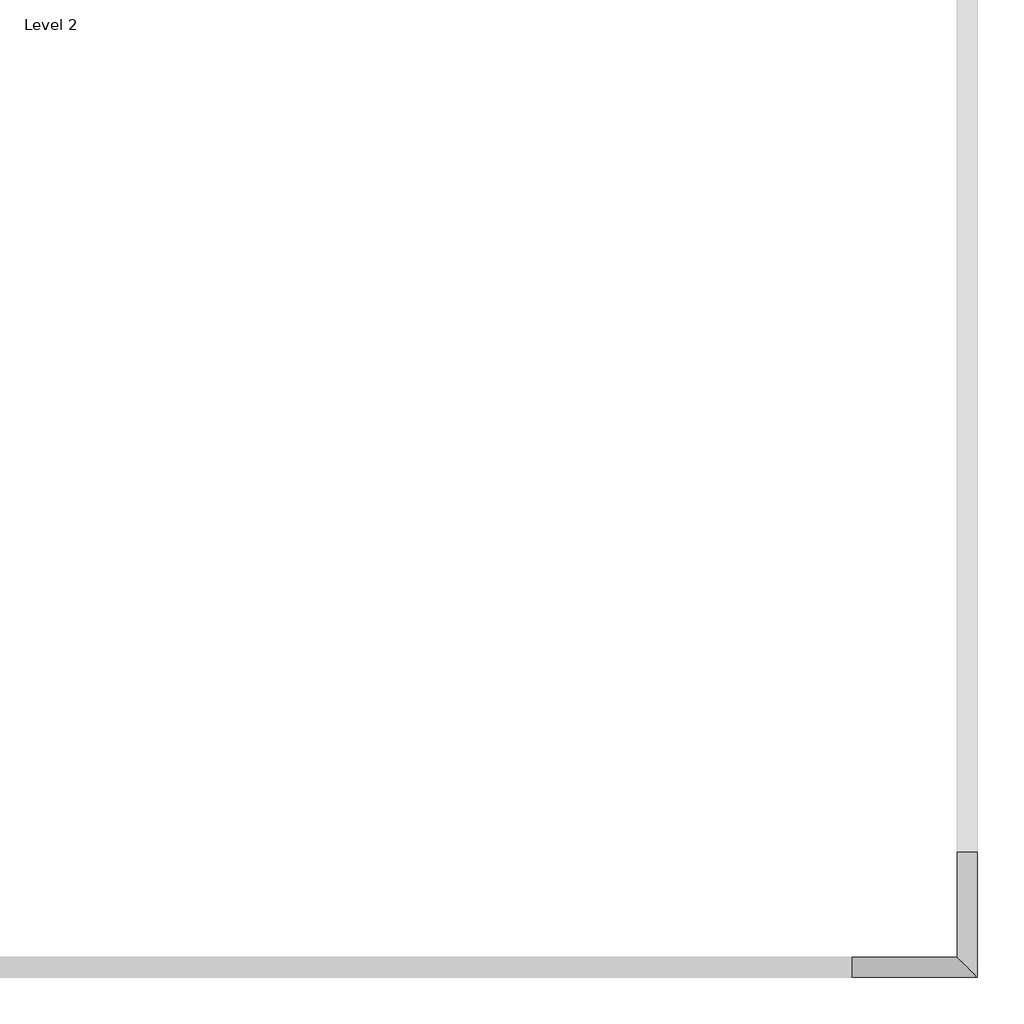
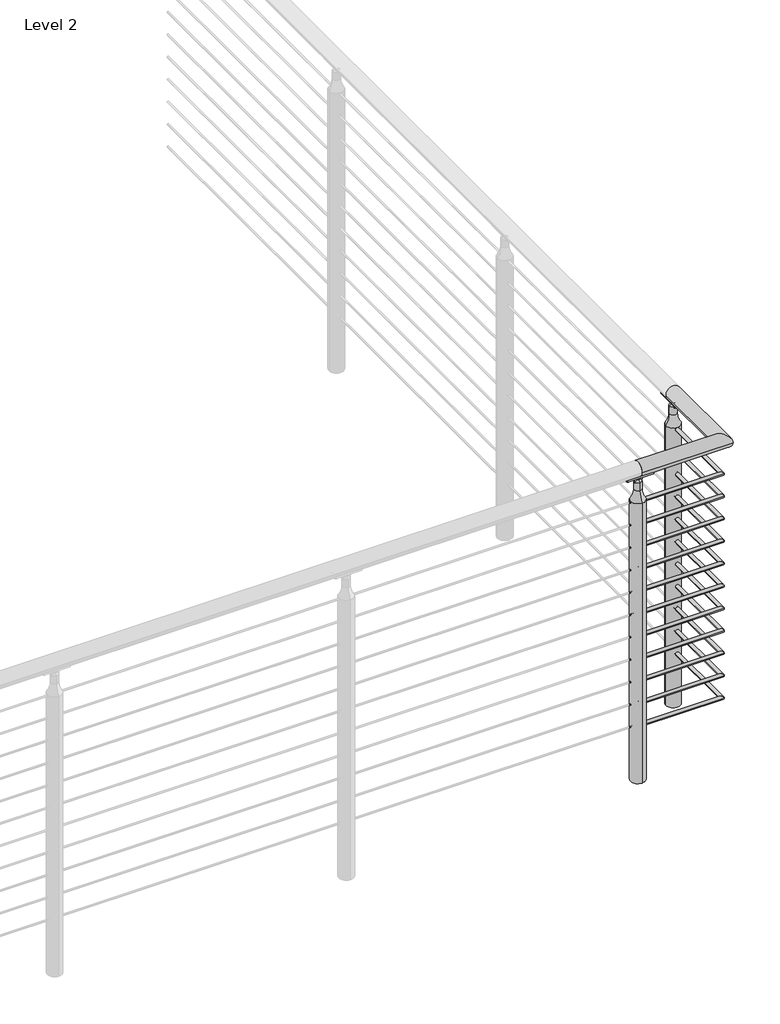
# One storey, part 15 of 21: 1 railing.
"""IFC4 building model written with IfcOpenShell, lengths in millimetres."""

from ifc_helpers import new_model, si_unit, point, frame, frame_2d, origin, place, context, project, spatial, polyline, circle_curve, ellipse_curve, trimmed, segment, composite_curve, outline, extrude, element, save
from ifc_brep_helpers import plane_surface, cylinder_surface, revolved_surface, advanced_brep

model = new_model("IFC4")

# Units and contexts
model_context = context("Model", 3, world=origin())
ifc_project = project(units=[si_unit("LENGTHUNIT", "METRE", prefix="MILLI")], contexts=[model_context])

# Site, building, storey
site = spatial("IfcSite", under=ifc_project)
building = spatial("IfcBuilding", under=site)
storey = spatial("IfcBuildingStorey", under=building, Name="Level 2", Elevation=3048.0)

# Railing
placement = place(None, origin())
element("IfcRailing", 1, ObjectType="VIVA-CIRCA-Cable-Weld Mount-Corner", at=placement, inside=storey, context=model_context, shape_type="SolidModel", body=[
    advanced_brep(
    [(46126.2072927, -52244.4426165, 4102.1), (46126.2072927, -52193.6426165, 4102.1), (46443.7072927, -52244.4426165, 4102.1), (46392.9072927, -52193.6426165, 4102.1), (46443.7072927, -51926.9426165, 4102.1), (46392.9072927, -51926.9426165, 4102.1)],
    [
        (0, 1, circle_curve(frame((46126.2072927, -52219.0426165, 4102.1), z_axis=(-1.0, 0.0, 0.0), x_axis=(0.0, 1.0, 0.0)), 25.4)),
        (1, 0, circle_curve(frame((46126.2072927, -52219.0426165, 4102.1), z_axis=(-1.0, 0.0, 0.0), x_axis=(0.0, 1.0, 0.0)), 25.4)),
        (0, 2),
        (2, 3, ellipse_curve(frame((46418.3072927, -52219.0426165, 4102.1), z_axis=(-0.7071067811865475, -0.7071067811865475, 0.0), x_axis=(-0.7071067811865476, 0.7071067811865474, 0.0)), 35.9210245, 25.4)),
        (3, 1),
        (3, 2, ellipse_curve(frame((46418.3072927, -52219.0426165, 4102.1), z_axis=(-0.7071067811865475, -0.7071067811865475, 0.0), x_axis=(-0.7071067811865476, 0.7071067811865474, 0.0)), 35.9210245, 25.4)),
        (4, 5, circle_curve(frame((46418.3072927, -51926.9426165, 4102.1), z_axis=(0.0, 1.0, 0.0), x_axis=(-1.0, 0.0, 0.0)), 25.4)),
        (5, 4, circle_curve(frame((46418.3072927, -51926.9426165, 4102.1), z_axis=(0.0, 1.0, 0.0), x_axis=(-1.0, 0.0, 0.0)), 25.4)),
        (2, 4),
        (5, 3),
    ],
    [
        plane_surface(frame((46126.2072927, -52219.0426165, 4127.5), z_axis=(-1.0, 0.0, 0.0), x_axis=(0.0, 1.0, 0.0))),
        cylinder_surface(frame((46126.2072927, -52219.0426165, 4102.1), z_axis=(-1.0, 0.0, 0.0), x_axis=(0.0, 1.0, 0.0)), 25.4),
        plane_surface(frame((46418.3072927, -51926.9426165, 4127.5), z_axis=(0.0, 1.0, 0.0), x_axis=(0.0, 0.0, 1.0))),
        cylinder_surface(frame((46418.3072927, -52219.0426165, 4102.1), z_axis=(0.0, -1.0, 0.0), x_axis=(-1.0, 0.0, 0.0)), 25.4),
    ],
    [
        (0, [[1, 2]]),
        (1, [[-1, 3, 4, 5]]),
        (1, [[-2, -5, 6, -3]]),
        (2, [[7, 8]]),
        (3, [[-4, 9, -8, 10]]),
        (3, [[-6, -10, -7, -9]]),
    ],
),
    advanced_brep(
    [(46126.2072927, -52212.6926165, 3981.45), (46126.2072927, -52225.3926165, 3981.45), (46411.9572927, -52212.6926165, 3981.45), (46424.6572927, -52225.3926165, 3981.45), (46411.9572927, -51926.9426165, 3981.45), (46424.6572927, -51926.9426165, 3981.45)],
    [
        (0, 1, circle_curve(frame((46126.2072927, -52219.0426165, 3981.45), z_axis=(-1.0, 0.0, 0.0), x_axis=(0.0, -1.0, 0.0)), 6.35)),
        (1, 0, circle_curve(frame((46126.2072927, -52219.0426165, 3981.45), z_axis=(-1.0, 0.0, 0.0), x_axis=(0.0, -1.0, 0.0)), 6.35)),
        (0, 2),
        (2, 3, ellipse_curve(frame((46418.3072927, -52219.0426165, 3981.45), z_axis=(-0.7071067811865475, -0.7071067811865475, 0.0), x_axis=(-0.7071067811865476, 0.7071067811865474, 0.0)), 8.9802561, 6.35)),
        (3, 1),
        (3, 2, ellipse_curve(frame((46418.3072927, -52219.0426165, 3981.45), z_axis=(-0.7071067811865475, -0.7071067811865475, 0.0), x_axis=(-0.7071067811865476, 0.7071067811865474, 0.0)), 8.9802561, 6.35)),
        (4, 5, circle_curve(frame((46418.3072927, -51926.9426165, 3981.45), z_axis=(0.0, 1.0, 0.0), x_axis=(1.0, 0.0, 0.0)), 6.35)),
        (5, 4, circle_curve(frame((46418.3072927, -51926.9426165, 3981.45), z_axis=(0.0, 1.0, 0.0), x_axis=(1.0, 0.0, 0.0)), 6.35)),
        (2, 4),
        (5, 3),
    ],
    [
        plane_surface(frame((46126.2072927, -52219.0426165, 3987.8), z_axis=(-1.0, 0.0, 0.0), x_axis=(0.0, 1.0, 0.0))),
        cylinder_surface(frame((46126.2072927, -52219.0426165, 3981.45), z_axis=(-1.0, 0.0, 0.0), x_axis=(0.0, -1.0, 0.0)), 6.35),
        plane_surface(frame((46418.3072927, -51926.9426165, 3987.8), z_axis=(0.0, 1.0, 0.0), x_axis=(0.0, 0.0, 1.0))),
        cylinder_surface(frame((46418.3072927, -52219.0426165, 3981.45), z_axis=(0.0, -1.0, 0.0), x_axis=(1.0, 0.0, 0.0)), 6.35),
    ],
    [
        (0, [[1, 2]]),
        (1, [[-1, 3, 4, 5]]),
        (1, [[-2, -5, 6, -3]]),
        (2, [[7, 8]]),
        (3, [[-4, 9, -8, 10]]),
        (3, [[-6, -10, -7, -9]]),
    ],
),
    advanced_brep(
    [(46126.2072927, -52212.6926165, 3898.9), (46126.2072927, -52225.3926165, 3898.9), (46411.9572927, -52212.6926165, 3898.9), (46424.6572927, -52225.3926165, 3898.9), (46411.9572927, -51926.9426165, 3898.9), (46424.6572927, -51926.9426165, 3898.9)],
    [
        (0, 1, circle_curve(frame((46126.2072927, -52219.0426165, 3898.9), z_axis=(-1.0, 0.0, 0.0), x_axis=(0.0, -1.0, 0.0)), 6.35)),
        (1, 0, circle_curve(frame((46126.2072927, -52219.0426165, 3898.9), z_axis=(-1.0, 0.0, 0.0), x_axis=(0.0, -1.0, 0.0)), 6.35)),
        (0, 2),
        (2, 3, ellipse_curve(frame((46418.3072927, -52219.0426165, 3898.9), z_axis=(-0.7071067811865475, -0.7071067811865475, 0.0), x_axis=(-0.7071067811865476, 0.7071067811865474, 0.0)), 8.9802561, 6.35)),
        (3, 1),
        (3, 2, ellipse_curve(frame((46418.3072927, -52219.0426165, 3898.9), z_axis=(-0.7071067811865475, -0.7071067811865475, 0.0), x_axis=(-0.7071067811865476, 0.7071067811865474, 0.0)), 8.9802561, 6.35)),
        (4, 5, circle_curve(frame((46418.3072927, -51926.9426165, 3898.9), z_axis=(0.0, 1.0, 0.0), x_axis=(1.0, 0.0, 0.0)), 6.35)),
        (5, 4, circle_curve(frame((46418.3072927, -51926.9426165, 3898.9), z_axis=(0.0, 1.0, 0.0), x_axis=(1.0, 0.0, 0.0)), 6.35)),
        (2, 4),
        (5, 3),
    ],
    [
        plane_surface(frame((46126.2072927, -52219.0426165, 3905.25), z_axis=(-1.0, 0.0, 0.0), x_axis=(0.0, 1.0, 0.0))),
        cylinder_surface(frame((46126.2072927, -52219.0426165, 3898.9), z_axis=(-1.0, 0.0, 0.0), x_axis=(0.0, -1.0, 0.0)), 6.35),
        plane_surface(frame((46418.3072927, -51926.9426165, 3905.25), z_axis=(0.0, 1.0, 0.0), x_axis=(0.0, 0.0, 1.0))),
        cylinder_surface(frame((46418.3072927, -52219.0426165, 3898.9), z_axis=(0.0, -1.0, 0.0), x_axis=(1.0, 0.0, 0.0)), 6.35),
    ],
    [
        (0, [[1, 2]]),
        (1, [[-1, 3, 4, 5]]),
        (1, [[-2, -5, 6, -3]]),
        (2, [[7, 8]]),
        (3, [[-4, 9, -8, 10]]),
        (3, [[-6, -10, -7, -9]]),
    ],
),
    advanced_brep(
    [(46126.2072927, -52212.6926165, 3816.35), (46126.2072927, -52225.3926165, 3816.35), (46411.9572927, -52212.6926165, 3816.35), (46424.6572927, -52225.3926165, 3816.35), (46411.9572927, -51926.9426165, 3816.35), (46424.6572927, -51926.9426165, 3816.35)],
    [
        (0, 1, circle_curve(frame((46126.2072927, -52219.0426165, 3816.35), z_axis=(-1.0, 0.0, 0.0), x_axis=(0.0, -1.0, 0.0)), 6.35)),
        (1, 0, circle_curve(frame((46126.2072927, -52219.0426165, 3816.35), z_axis=(-1.0, 0.0, 0.0), x_axis=(0.0, -1.0, 0.0)), 6.35)),
        (0, 2),
        (2, 3, ellipse_curve(frame((46418.3072927, -52219.0426165, 3816.35), z_axis=(-0.7071067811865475, -0.7071067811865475, 0.0), x_axis=(-0.7071067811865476, 0.7071067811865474, 0.0)), 8.9802561, 6.35)),
        (3, 1),
        (3, 2, ellipse_curve(frame((46418.3072927, -52219.0426165, 3816.35), z_axis=(-0.7071067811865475, -0.7071067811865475, 0.0), x_axis=(-0.7071067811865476, 0.7071067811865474, 0.0)), 8.9802561, 6.35)),
        (4, 5, circle_curve(frame((46418.3072927, -51926.9426165, 3816.35), z_axis=(0.0, 1.0, 0.0), x_axis=(1.0, 0.0, 0.0)), 6.35)),
        (5, 4, circle_curve(frame((46418.3072927, -51926.9426165, 3816.35), z_axis=(0.0, 1.0, 0.0), x_axis=(1.0, 0.0, 0.0)), 6.35)),
        (2, 4),
        (5, 3),
    ],
    [
        plane_surface(frame((46126.2072927, -52219.0426165, 3822.7), z_axis=(-1.0, 0.0, 0.0), x_axis=(0.0, 1.0, 0.0))),
        cylinder_surface(frame((46126.2072927, -52219.0426165, 3816.35), z_axis=(-1.0, 0.0, 0.0), x_axis=(0.0, -1.0, 0.0)), 6.35),
        plane_surface(frame((46418.3072927, -51926.9426165, 3822.7), z_axis=(0.0, 1.0, 0.0), x_axis=(0.0, 0.0, 1.0))),
        cylinder_surface(frame((46418.3072927, -52219.0426165, 3816.35), z_axis=(0.0, -1.0, 0.0), x_axis=(1.0, 0.0, 0.0)), 6.35),
    ],
    [
        (0, [[1, 2]]),
        (1, [[-1, 3, 4, 5]]),
        (1, [[-2, -5, 6, -3]]),
        (2, [[7, 8]]),
        (3, [[-4, 9, -8, 10]]),
        (3, [[-6, -10, -7, -9]]),
    ],
),
    advanced_brep(
    [(46126.2072927, -52212.6926165, 3733.8), (46126.2072927, -52225.3926165, 3733.8), (46411.9572927, -52212.6926165, 3733.8), (46424.6572927, -52225.3926165, 3733.8), (46411.9572927, -51926.9426165, 3733.8), (46424.6572927, -51926.9426165, 3733.8)],
    [
        (0, 1, circle_curve(frame((46126.2072927, -52219.0426165, 3733.8), z_axis=(-1.0, 0.0, 0.0), x_axis=(0.0, -1.0, 0.0)), 6.35)),
        (1, 0, circle_curve(frame((46126.2072927, -52219.0426165, 3733.8), z_axis=(-1.0, 0.0, 0.0), x_axis=(0.0, -1.0, 0.0)), 6.35)),
        (0, 2),
        (2, 3, ellipse_curve(frame((46418.3072927, -52219.0426165, 3733.8), z_axis=(-0.7071067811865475, -0.7071067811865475, 0.0), x_axis=(-0.7071067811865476, 0.7071067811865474, 0.0)), 8.9802561, 6.35)),
        (3, 1),
        (3, 2, ellipse_curve(frame((46418.3072927, -52219.0426165, 3733.8), z_axis=(-0.7071067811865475, -0.7071067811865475, 0.0), x_axis=(-0.7071067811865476, 0.7071067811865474, 0.0)), 8.9802561, 6.35)),
        (4, 5, circle_curve(frame((46418.3072927, -51926.9426165, 3733.8), z_axis=(0.0, 1.0, 0.0), x_axis=(1.0, 0.0, 0.0)), 6.35)),
        (5, 4, circle_curve(frame((46418.3072927, -51926.9426165, 3733.8), z_axis=(0.0, 1.0, 0.0), x_axis=(1.0, 0.0, 0.0)), 6.35)),
        (2, 4),
        (5, 3),
    ],
    [
        plane_surface(frame((46126.2072927, -52219.0426165, 3740.15), z_axis=(-1.0, 0.0, 0.0), x_axis=(0.0, 1.0, 0.0))),
        cylinder_surface(frame((46126.2072927, -52219.0426165, 3733.8), z_axis=(-1.0, 0.0, 0.0), x_axis=(0.0, -1.0, 0.0)), 6.35),
        plane_surface(frame((46418.3072927, -51926.9426165, 3740.15), z_axis=(0.0, 1.0, 0.0), x_axis=(0.0, 0.0, 1.0))),
        cylinder_surface(frame((46418.3072927, -52219.0426165, 3733.8), z_axis=(0.0, -1.0, 0.0), x_axis=(1.0, 0.0, 0.0)), 6.35),
    ],
    [
        (0, [[1, 2]]),
        (1, [[-1, 3, 4, 5]]),
        (1, [[-2, -5, 6, -3]]),
        (2, [[7, 8]]),
        (3, [[-4, 9, -8, 10]]),
        (3, [[-6, -10, -7, -9]]),
    ],
),
    advanced_brep(
    [(46126.2072927, -52212.6926165, 3651.25), (46126.2072927, -52225.3926165, 3651.25), (46411.9572927, -52212.6926165, 3651.25), (46424.6572927, -52225.3926165, 3651.25), (46411.9572927, -51926.9426165, 3651.25), (46424.6572927, -51926.9426165, 3651.25)],
    [
        (0, 1, circle_curve(frame((46126.2072927, -52219.0426165, 3651.25), z_axis=(-1.0, 0.0, 0.0), x_axis=(0.0, -1.0, 0.0)), 6.35)),
        (1, 0, circle_curve(frame((46126.2072927, -52219.0426165, 3651.25), z_axis=(-1.0, 0.0, 0.0), x_axis=(0.0, -1.0, 0.0)), 6.35)),
        (0, 2),
        (2, 3, ellipse_curve(frame((46418.3072927, -52219.0426165, 3651.25), z_axis=(-0.7071067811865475, -0.7071067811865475, 0.0), x_axis=(-0.7071067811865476, 0.7071067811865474, 0.0)), 8.9802561, 6.35)),
        (3, 1),
        (3, 2, ellipse_curve(frame((46418.3072927, -52219.0426165, 3651.25), z_axis=(-0.7071067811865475, -0.7071067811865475, 0.0), x_axis=(-0.7071067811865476, 0.7071067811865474, 0.0)), 8.9802561, 6.35)),
        (4, 5, circle_curve(frame((46418.3072927, -51926.9426165, 3651.25), z_axis=(0.0, 1.0, 0.0), x_axis=(1.0, 0.0, 0.0)), 6.35)),
        (5, 4, circle_curve(frame((46418.3072927, -51926.9426165, 3651.25), z_axis=(0.0, 1.0, 0.0), x_axis=(1.0, 0.0, 0.0)), 6.35)),
        (2, 4),
        (5, 3),
    ],
    [
        plane_surface(frame((46126.2072927, -52219.0426165, 3657.6), z_axis=(-1.0, 0.0, 0.0), x_axis=(0.0, 1.0, 0.0))),
        cylinder_surface(frame((46126.2072927, -52219.0426165, 3651.25), z_axis=(-1.0, 0.0, 0.0), x_axis=(0.0, -1.0, 0.0)), 6.35),
        plane_surface(frame((46418.3072927, -51926.9426165, 3657.6), z_axis=(0.0, 1.0, 0.0), x_axis=(0.0, 0.0, 1.0))),
        cylinder_surface(frame((46418.3072927, -52219.0426165, 3651.25), z_axis=(0.0, -1.0, 0.0), x_axis=(1.0, 0.0, 0.0)), 6.35),
    ],
    [
        (0, [[1, 2]]),
        (1, [[-1, 3, 4, 5]]),
        (1, [[-2, -5, 6, -3]]),
        (2, [[7, 8]]),
        (3, [[-4, 9, -8, 10]]),
        (3, [[-6, -10, -7, -9]]),
    ],
),
    advanced_brep(
    [(46126.2072927, -52212.6926165, 3568.7), (46126.2072927, -52225.3926165, 3568.7), (46411.9572927, -52212.6926165, 3568.7), (46424.6572927, -52225.3926165, 3568.7), (46411.9572927, -51926.9426165, 3568.7), (46424.6572927, -51926.9426165, 3568.7)],
    [
        (0, 1, circle_curve(frame((46126.2072927, -52219.0426165, 3568.7), z_axis=(-1.0, 0.0, 0.0), x_axis=(0.0, -1.0, 0.0)), 6.35)),
        (1, 0, circle_curve(frame((46126.2072927, -52219.0426165, 3568.7), z_axis=(-1.0, 0.0, 0.0), x_axis=(0.0, -1.0, 0.0)), 6.35)),
        (0, 2),
        (2, 3, ellipse_curve(frame((46418.3072927, -52219.0426165, 3568.7), z_axis=(-0.7071067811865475, -0.7071067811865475, 0.0), x_axis=(-0.7071067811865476, 0.7071067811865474, 0.0)), 8.9802561, 6.35)),
        (3, 1),
        (3, 2, ellipse_curve(frame((46418.3072927, -52219.0426165, 3568.7), z_axis=(-0.7071067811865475, -0.7071067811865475, 0.0), x_axis=(-0.7071067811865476, 0.7071067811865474, 0.0)), 8.9802561, 6.35)),
        (4, 5, circle_curve(frame((46418.3072927, -51926.9426165, 3568.7), z_axis=(0.0, 1.0, 0.0), x_axis=(1.0, 0.0, 0.0)), 6.35)),
        (5, 4, circle_curve(frame((46418.3072927, -51926.9426165, 3568.7), z_axis=(0.0, 1.0, 0.0), x_axis=(1.0, 0.0, 0.0)), 6.35)),
        (2, 4),
        (5, 3),
    ],
    [
        plane_surface(frame((46126.2072927, -52219.0426165, 3575.05), z_axis=(-1.0, 0.0, 0.0), x_axis=(0.0, 1.0, 0.0))),
        cylinder_surface(frame((46126.2072927, -52219.0426165, 3568.7), z_axis=(-1.0, 0.0, 0.0), x_axis=(0.0, -1.0, 0.0)), 6.35),
        plane_surface(frame((46418.3072927, -51926.9426165, 3575.05), z_axis=(0.0, 1.0, 0.0), x_axis=(0.0, 0.0, 1.0))),
        cylinder_surface(frame((46418.3072927, -52219.0426165, 3568.7), z_axis=(0.0, -1.0, 0.0), x_axis=(1.0, 0.0, 0.0)), 6.35),
    ],
    [
        (0, [[1, 2]]),
        (1, [[-1, 3, 4, 5]]),
        (1, [[-2, -5, 6, -3]]),
        (2, [[7, 8]]),
        (3, [[-4, 9, -8, 10]]),
        (3, [[-6, -10, -7, -9]]),
    ],
),
    advanced_brep(
    [(46126.2072927, -52212.6926165, 3486.15), (46126.2072927, -52225.3926165, 3486.15), (46411.9572927, -52212.6926165, 3486.15), (46424.6572927, -52225.3926165, 3486.15), (46411.9572927, -51926.9426165, 3486.15), (46424.6572927, -51926.9426165, 3486.15)],
    [
        (0, 1, circle_curve(frame((46126.2072927, -52219.0426165, 3486.15), z_axis=(-1.0, 0.0, 0.0), x_axis=(0.0, -1.0, 0.0)), 6.35)),
        (1, 0, circle_curve(frame((46126.2072927, -52219.0426165, 3486.15), z_axis=(-1.0, 0.0, 0.0), x_axis=(0.0, -1.0, 0.0)), 6.35)),
        (0, 2),
        (2, 3, ellipse_curve(frame((46418.3072927, -52219.0426165, 3486.15), z_axis=(-0.7071067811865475, -0.7071067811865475, 0.0), x_axis=(-0.7071067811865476, 0.7071067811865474, 0.0)), 8.9802561, 6.35)),
        (3, 1),
        (3, 2, ellipse_curve(frame((46418.3072927, -52219.0426165, 3486.15), z_axis=(-0.7071067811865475, -0.7071067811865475, 0.0), x_axis=(-0.7071067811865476, 0.7071067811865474, 0.0)), 8.9802561, 6.35)),
        (4, 5, circle_curve(frame((46418.3072927, -51926.9426165, 3486.15), z_axis=(0.0, 1.0, 0.0), x_axis=(1.0, 0.0, 0.0)), 6.35)),
        (5, 4, circle_curve(frame((46418.3072927, -51926.9426165, 3486.15), z_axis=(0.0, 1.0, 0.0), x_axis=(1.0, 0.0, 0.0)), 6.35)),
        (2, 4),
        (5, 3),
    ],
    [
        plane_surface(frame((46126.2072927, -52219.0426165, 3492.5), z_axis=(-1.0, 0.0, 0.0), x_axis=(0.0, 1.0, 0.0))),
        cylinder_surface(frame((46126.2072927, -52219.0426165, 3486.15), z_axis=(-1.0, 0.0, 0.0), x_axis=(0.0, -1.0, 0.0)), 6.35),
        plane_surface(frame((46418.3072927, -51926.9426165, 3492.5), z_axis=(0.0, 1.0, 0.0), x_axis=(0.0, 0.0, 1.0))),
        cylinder_surface(frame((46418.3072927, -52219.0426165, 3486.15), z_axis=(0.0, -1.0, 0.0), x_axis=(1.0, 0.0, 0.0)), 6.35),
    ],
    [
        (0, [[1, 2]]),
        (1, [[-1, 3, 4, 5]]),
        (1, [[-2, -5, 6, -3]]),
        (2, [[7, 8]]),
        (3, [[-4, 9, -8, 10]]),
        (3, [[-6, -10, -7, -9]]),
    ],
),
    advanced_brep(
    [(46126.2072927, -52212.6926165, 3403.6), (46126.2072927, -52225.3926165, 3403.6), (46411.9572927, -52212.6926165, 3403.6), (46424.6572927, -52225.3926165, 3403.6), (46411.9572927, -51926.9426165, 3403.6), (46424.6572927, -51926.9426165, 3403.6)],
    [
        (0, 1, circle_curve(frame((46126.2072927, -52219.0426165, 3403.6), z_axis=(-1.0, 0.0, 0.0), x_axis=(0.0, -1.0, 0.0)), 6.35)),
        (1, 0, circle_curve(frame((46126.2072927, -52219.0426165, 3403.6), z_axis=(-1.0, 0.0, 0.0), x_axis=(0.0, -1.0, 0.0)), 6.35)),
        (0, 2),
        (2, 3, ellipse_curve(frame((46418.3072927, -52219.0426165, 3403.6), z_axis=(-0.7071067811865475, -0.7071067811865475, 0.0), x_axis=(-0.7071067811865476, 0.7071067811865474, 0.0)), 8.9802561, 6.35)),
        (3, 1),
        (3, 2, ellipse_curve(frame((46418.3072927, -52219.0426165, 3403.6), z_axis=(-0.7071067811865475, -0.7071067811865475, 0.0), x_axis=(-0.7071067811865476, 0.7071067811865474, 0.0)), 8.9802561, 6.35)),
        (4, 5, circle_curve(frame((46418.3072927, -51926.9426165, 3403.6), z_axis=(0.0, 1.0, 0.0), x_axis=(1.0, 0.0, 0.0)), 6.35)),
        (5, 4, circle_curve(frame((46418.3072927, -51926.9426165, 3403.6), z_axis=(0.0, 1.0, 0.0), x_axis=(1.0, 0.0, 0.0)), 6.35)),
        (2, 4),
        (5, 3),
    ],
    [
        plane_surface(frame((46126.2072927, -52219.0426165, 3409.95), z_axis=(-1.0, 0.0, 0.0), x_axis=(0.0, 1.0, 0.0))),
        cylinder_surface(frame((46126.2072927, -52219.0426165, 3403.6), z_axis=(-1.0, 0.0, 0.0), x_axis=(0.0, -1.0, 0.0)), 6.35),
        plane_surface(frame((46418.3072927, -51926.9426165, 3409.95), z_axis=(0.0, 1.0, 0.0), x_axis=(0.0, 0.0, 1.0))),
        cylinder_surface(frame((46418.3072927, -52219.0426165, 3403.6), z_axis=(0.0, -1.0, 0.0), x_axis=(1.0, 0.0, 0.0)), 6.35),
    ],
    [
        (0, [[1, 2]]),
        (1, [[-1, 3, 4, 5]]),
        (1, [[-2, -5, 6, -3]]),
        (2, [[7, 8]]),
        (3, [[-4, 9, -8, 10]]),
        (3, [[-6, -10, -7, -9]]),
    ],
),
    advanced_brep(
    [(46126.2072927, -52212.6926165, 3321.05), (46126.2072927, -52225.3926165, 3321.05), (46411.9572927, -52212.6926165, 3321.05), (46424.6572927, -52225.3926165, 3321.05), (46411.9572927, -51926.9426165, 3321.05), (46424.6572927, -51926.9426165, 3321.05)],
    [
        (0, 1, circle_curve(frame((46126.2072927, -52219.0426165, 3321.05), z_axis=(-1.0, 0.0, 0.0), x_axis=(0.0, -1.0, 0.0)), 6.35)),
        (1, 0, circle_curve(frame((46126.2072927, -52219.0426165, 3321.05), z_axis=(-1.0, 0.0, 0.0), x_axis=(0.0, -1.0, 0.0)), 6.35)),
        (0, 2),
        (2, 3, ellipse_curve(frame((46418.3072927, -52219.0426165, 3321.05), z_axis=(-0.7071067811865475, -0.7071067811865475, 0.0), x_axis=(-0.7071067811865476, 0.7071067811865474, 0.0)), 8.9802561, 6.35)),
        (3, 1),
        (3, 2, ellipse_curve(frame((46418.3072927, -52219.0426165, 3321.05), z_axis=(-0.7071067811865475, -0.7071067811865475, 0.0), x_axis=(-0.7071067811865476, 0.7071067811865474, 0.0)), 8.9802561, 6.35)),
        (4, 5, circle_curve(frame((46418.3072927, -51926.9426165, 3321.05), z_axis=(0.0, 1.0, 0.0), x_axis=(1.0, 0.0, 0.0)), 6.35)),
        (5, 4, circle_curve(frame((46418.3072927, -51926.9426165, 3321.05), z_axis=(0.0, 1.0, 0.0), x_axis=(1.0, 0.0, 0.0)), 6.35)),
        (2, 4),
        (5, 3),
    ],
    [
        plane_surface(frame((46126.2072927, -52219.0426165, 3327.4), z_axis=(-1.0, 0.0, 0.0), x_axis=(0.0, 1.0, 0.0))),
        cylinder_surface(frame((46126.2072927, -52219.0426165, 3321.05), z_axis=(-1.0, 0.0, 0.0), x_axis=(0.0, -1.0, 0.0)), 6.35),
        plane_surface(frame((46418.3072927, -51926.9426165, 3327.4), z_axis=(0.0, 1.0, 0.0), x_axis=(0.0, 0.0, 1.0))),
        cylinder_surface(frame((46418.3072927, -52219.0426165, 3321.05), z_axis=(0.0, -1.0, 0.0), x_axis=(1.0, 0.0, 0.0)), 6.35),
    ],
    [
        (0, [[1, 2]]),
        (1, [[-1, 3, 4, 5]]),
        (1, [[-2, -5, 6, -3]]),
        (2, [[7, 8]]),
        (3, [[-4, 9, -8, 10]]),
        (3, [[-6, -10, -7, -9]]),
    ],
),
    advanced_brep(
    [(46126.2072927, -52212.6926165, 3238.5), (46126.2072927, -52225.3926165, 3238.5), (46411.9572927, -52212.6926165, 3238.5), (46424.6572927, -52225.3926165, 3238.5), (46411.9572927, -51926.9426165, 3238.5), (46424.6572927, -51926.9426165, 3238.5)],
    [
        (0, 1, circle_curve(frame((46126.2072927, -52219.0426165, 3238.5), z_axis=(-1.0, 0.0, 0.0), x_axis=(0.0, -1.0, 0.0)), 6.35)),
        (1, 0, circle_curve(frame((46126.2072927, -52219.0426165, 3238.5), z_axis=(-1.0, 0.0, 0.0), x_axis=(0.0, -1.0, 0.0)), 6.35)),
        (0, 2),
        (2, 3, ellipse_curve(frame((46418.3072927, -52219.0426165, 3238.5), z_axis=(-0.7071067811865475, -0.7071067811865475, 0.0), x_axis=(-0.7071067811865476, 0.7071067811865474, 0.0)), 8.9802561, 6.35)),
        (3, 1),
        (3, 2, ellipse_curve(frame((46418.3072927, -52219.0426165, 3238.5), z_axis=(-0.7071067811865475, -0.7071067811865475, 0.0), x_axis=(-0.7071067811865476, 0.7071067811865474, 0.0)), 8.9802561, 6.35)),
        (4, 5, circle_curve(frame((46418.3072927, -51926.9426165, 3238.5), z_axis=(0.0, 1.0, 0.0), x_axis=(1.0, 0.0, 0.0)), 6.35)),
        (5, 4, circle_curve(frame((46418.3072927, -51926.9426165, 3238.5), z_axis=(0.0, 1.0, 0.0), x_axis=(1.0, 0.0, 0.0)), 6.35)),
        (2, 4),
        (5, 3),
    ],
    [
        plane_surface(frame((46126.2072927, -52219.0426165, 3244.85), z_axis=(-1.0, 0.0, 0.0), x_axis=(0.0, 1.0, 0.0))),
        cylinder_surface(frame((46126.2072927, -52219.0426165, 3238.5), z_axis=(-1.0, 0.0, 0.0), x_axis=(0.0, -1.0, 0.0)), 6.35),
        plane_surface(frame((46418.3072927, -51926.9426165, 3244.85), z_axis=(0.0, 1.0, 0.0), x_axis=(0.0, 0.0, 1.0))),
        cylinder_surface(frame((46418.3072927, -52219.0426165, 3238.5), z_axis=(0.0, -1.0, 0.0), x_axis=(1.0, 0.0, 0.0)), 6.35),
    ],
    [
        (0, [[1, 2]]),
        (1, [[-1, 3, 4, 5]]),
        (1, [[-2, -5, 6, -3]]),
        (2, [[7, 8]]),
        (3, [[-4, 9, -8, 10]]),
        (3, [[-6, -10, -7, -9]]),
    ],
),
    advanced_brep(
    [(46126.2072927, -52212.6926165, 3155.95), (46126.2072927, -52225.3926165, 3155.95), (46411.9572927, -52212.6926165, 3155.95), (46424.6572927, -52225.3926165, 3155.95), (46411.9572927, -51926.9426165, 3155.95), (46424.6572927, -51926.9426165, 3155.95)],
    [
        (0, 1, circle_curve(frame((46126.2072927, -52219.0426165, 3155.95), z_axis=(-1.0, 0.0, 0.0), x_axis=(0.0, -1.0, 0.0)), 6.35)),
        (1, 0, circle_curve(frame((46126.2072927, -52219.0426165, 3155.95), z_axis=(-1.0, 0.0, 0.0), x_axis=(0.0, -1.0, 0.0)), 6.35)),
        (0, 2),
        (2, 3, ellipse_curve(frame((46418.3072927, -52219.0426165, 3155.95), z_axis=(-0.7071067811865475, -0.7071067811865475, 0.0), x_axis=(-0.7071067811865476, 0.7071067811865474, 0.0)), 8.9802561, 6.35)),
        (3, 1),
        (3, 2, ellipse_curve(frame((46418.3072927, -52219.0426165, 3155.95), z_axis=(-0.7071067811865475, -0.7071067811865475, 0.0), x_axis=(-0.7071067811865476, 0.7071067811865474, 0.0)), 8.9802561, 6.35)),
        (4, 5, circle_curve(frame((46418.3072927, -51926.9426165, 3155.95), z_axis=(0.0, 1.0, 0.0), x_axis=(1.0, 0.0, 0.0)), 6.35)),
        (5, 4, circle_curve(frame((46418.3072927, -51926.9426165, 3155.95), z_axis=(0.0, 1.0, 0.0), x_axis=(1.0, 0.0, 0.0)), 6.35)),
        (2, 4),
        (5, 3),
    ],
    [
        plane_surface(frame((46126.2072927, -52219.0426165, 3162.3), z_axis=(-1.0, 0.0, 0.0), x_axis=(0.0, 1.0, 0.0))),
        cylinder_surface(frame((46126.2072927, -52219.0426165, 3155.95), z_axis=(-1.0, 0.0, 0.0), x_axis=(0.0, -1.0, 0.0)), 6.35),
        plane_surface(frame((46418.3072927, -51926.9426165, 3162.3), z_axis=(0.0, 1.0, 0.0), x_axis=(0.0, 0.0, 1.0))),
        cylinder_surface(frame((46418.3072927, -52219.0426165, 3155.95), z_axis=(0.0, -1.0, 0.0), x_axis=(1.0, 0.0, 0.0)), 6.35),
    ],
    [
        (0, [[1, 2]]),
        (1, [[-1, 3, 4, 5]]),
        (1, [[-2, -5, 6, -3]]),
        (2, [[7, 8]]),
        (3, [[-4, 9, -8, 10]]),
        (3, [[-6, -10, -7, -9]]),
    ],
),
    extrude(outline(composite_curve([segment(trimmed(circle_curve(frame_2d((4103.4254922, 46418.2105643)), 25.4345159), [point((4081.3106679, 46430.7743672))], [point((4081.2157471, 46405.8153306))], True, "CARTESIAN"), True, "CONTINUOUS"), segment(trimmed(circle_curve(frame_2d((4078.7132623, 46404.5706774)), 2.7949225), [point((4081.2157471, 46405.8153306))], [point((4076.3406769, 46403.0933724))], False, "CARTESIAN"), True, "CONTINUOUS"), segment(trimmed(circle_curve(frame_2d((4104.1881188, 46418.3440274)), 31.75), [point((4076.3406769, 46403.0933724))], [point((4076.9214354, 46434.6102646))], False, "CARTESIAN"), True, "CONTINUOUS"), segment(trimmed(circle_curve(frame_2d((4078.7923545, 46432.3219249)), 2.9558141), [point((4076.9214354, 46434.6102646))], [point((4081.3106679, 46430.7743672))], False, "CARTESIAN"), True, "CONTINUOUS")], self_intersect=False)), frame((0.0, -51971.7831415, 0.0), z_axis=(0.0, 1.0, 0.0), x_axis=(0.0, 0.0, 1.0)), (0.0, 0.0, 1.0), 90.4748),
    advanced_brep(
    [(46415.7672927, -51899.4778267, 4072.6506908), (46415.7672927, -51913.8457415, 4058.282776), (46415.7672927, -51939.2457415, 4058.282776), (46415.7672927, -51953.6136564, 4072.6506908), (46420.8472927, -51899.4778267, 4072.6506908), (46420.8472927, -51953.6136564, 4072.6506908), (46420.8472927, -51939.2457415, 4058.282776), (46420.8472927, -51913.8457415, 4058.282776)],
    [
        (0, 1, circle_curve(frame((46415.7672927, -51899.4778267, 4058.282776), z_axis=(1.0, 0.0, 0.0), x_axis=(0.0, -1.0, 0.0)), 14.3679149)),
        (1, 2, circle_curve(frame((46415.7672927, -51926.5457415, 4058.282776), z_axis=(-1.0, 0.0, 0.0), x_axis=(0.0, -1.0, 0.0)), 12.7)),
        (2, 3, circle_curve(frame((46415.7672927, -51953.6136564, 4058.282776), z_axis=(1.0, 0.0, 0.0), x_axis=(0.0, -1.0, 0.0)), 14.3679149)),
        (3, 0),
        (4, 5),
        (5, 6, circle_curve(frame((46420.8472927, -51953.6136564, 4058.282776), z_axis=(-1.0, 0.0, 0.0), x_axis=(0.0, -1.0, 0.0)), 14.3679149)),
        (6, 7, circle_curve(frame((46420.8472927, -51926.5457415, 4058.282776), z_axis=(1.0, 0.0, 0.0), x_axis=(0.0, -1.0, 0.0)), 12.7)),
        (7, 4, circle_curve(frame((46420.8472927, -51899.4778267, 4058.282776), z_axis=(-1.0, 0.0, 0.0), x_axis=(0.0, -1.0, 0.0)), 14.3679149)),
        (0, 4),
        (7, 1),
        (6, 2),
        (5, 3),
    ],
    [
        plane_surface(frame((46415.7672927, -51913.8457415, 4058.282776), z_axis=(-1.0, 0.0, 0.0), x_axis=(0.0, 0.0, -1.0))),
        plane_surface(frame((46420.8472927, -51913.8457415, 4058.282776), z_axis=(1.0, 0.0, 0.0), x_axis=(0.0, 0.0, 1.0))),
        revolved_surface(polyline([(46420.8472927, -51913.8457416, 4058.282776), (46415.7672927, -51913.8457416, 4058.282776)]), (46420.8472927, -51899.4778267, 4058.282776), (1.0, 0.0, 0.0)),
        cylinder_surface(frame((46420.8472927, -51926.5457415, 4058.282776), z_axis=(-1.0, 0.0, 0.0), x_axis=(0.0, -1.0, 0.0)), 12.7),
        revolved_surface(polyline([(46420.8472927, -51967.9815713, 4058.282776), (46415.7672927, -51967.9815713, 4058.282776)]), (46420.8472927, -51953.6136564, 4058.282776), (1.0, 0.0, 0.0)),
        plane_surface(frame((46415.7672927, -51953.6136564, 4072.6506908), z_axis=(0.0, 0.0, 1.0), x_axis=(1.0, 0.0, 0.0))),
    ],
    [
        (0, [[1, 2, 3, 4]]),
        (1, [[5, 6, 7, 8]]),
        (2, [[-1, 9, -8, 10]]),
        (3, [[-2, -10, -7, 11]]),
        (4, [[-3, -11, -6, 12]]),
        (5, [[-4, -12, -5, -9]]),
    ],
),
    advanced_brep(
    [(46443.7066905, -51926.5457415, 3989.1347854), (46392.9078949, -51926.5457415, 3989.1347854), (46392.9078949, -51926.5457415, 2959.1), (46443.7066905, -51926.5457415, 2959.1), (46431.0452612, -51926.5457415, 4027.3486202), (46405.5693241, -51926.5457415, 4027.3486202), (46431.0452612, -51926.5457415, 4056.5779599), (46405.5693241, -51926.5457415, 4056.5779599), (46418.3072927, -51926.5457415, 4063.238668), (46418.3072927, -51926.5457415, 2959.1)],
    [
        (0, 1, circle_curve(frame((46418.3072927, -51926.5457415, 3989.1347854), z_axis=(0.0, 0.0, -1.0), x_axis=(-1.0, 0.0, 0.0)), 25.3993978)),
        (1, 2),
        (2, 3, circle_curve(frame((46418.3072927, -51926.5457415, 2959.1), z_axis=(0.0, 0.0, 1.0), x_axis=(-1.0, 0.0, 0.0)), 25.3993978)),
        (3, 0),
        (1, 0, circle_curve(frame((46418.3072927, -51926.5457415, 3989.1347854), z_axis=(0.0, 0.0, -1.0), x_axis=(-1.0, 0.0, 0.0)), 25.3993978)),
        (3, 2, circle_curve(frame((46418.3072927, -51926.5457415, 2959.1), z_axis=(0.0, 0.0, 1.0), x_axis=(-1.0, 0.0, 0.0)), 25.3993978)),
        (4, 5, circle_curve(frame((46418.3072927, -51926.5457415, 4027.3486202), z_axis=(0.0, 0.0, -1.0), x_axis=(-1.0, 0.0, 0.0)), 12.7379685)),
        (5, 1, circle_curve(frame((46341.5714558, -51926.5457415, 4027.3486202), z_axis=(0.0, 1.0, 0.0), x_axis=(-1.0, 0.0, 0.0)), 63.9978683)),
        (0, 4, circle_curve(frame((46495.0431295, -51926.5457415, 4027.3486202), z_axis=(0.0, 1.0, 0.0), x_axis=(1.0, 0.0, 0.0)), 63.9978683)),
        (5, 4, circle_curve(frame((46418.3072927, -51926.5457415, 4027.3486202), z_axis=(0.0, 0.0, -1.0), x_axis=(-1.0, 0.0, 0.0)), 12.7379685)),
        (6, 7, circle_curve(frame((46418.3072927, -51926.5457415, 4056.5779599), z_axis=(0.0, 0.0, -1.0), x_axis=(-1.0, 0.0, 0.0)), 12.7379685)),
        (7, 5),
        (4, 6),
        (7, 6, circle_curve(frame((46418.3072927, -51926.5457415, 4056.5779599), z_axis=(0.0, 0.0, -1.0), x_axis=(-1.0, 0.0, 0.0)), 12.7379685)),
        (8, 7, circle_curve(frame((46418.3072927, -51926.5457415, 4047.7282394), z_axis=(0.0, -1.0, 0.0), x_axis=(-1.0, 0.0, 0.0)), 15.5104286)),
        (6, 8, circle_curve(frame((46418.3072927, -51926.5457415, 4047.7282394), z_axis=(0.0, -1.0, 0.0), x_axis=(1.0, 0.0, 0.0)), 15.5104286)),
        (2, 9),
        (9, 3),
    ],
    [
        cylinder_surface(frame((46418.3072927, -51926.5457415, 4152.9), z_axis=(0.0, 0.0, 1.0), x_axis=(-1.0, 0.0, 0.0)), 25.3993978),
        revolved_surface(trimmed(ellipse_curve(frame((46341.5714558, -51926.5457415, 4027.3486202), z_axis=(0.0, -1.0, 0.0), x_axis=(-1.0, 0.0, 0.0)), 63.9978683, 63.9978683), [point((46392.9078949, -51926.5457415, 3989.1347854))], [point((46405.5693241, -51926.5457415, 4027.3486202))], True, "CARTESIAN"), (46418.3072927, -51926.5457415, 4152.9), (0.0, 0.0, 1.0)),
        cylinder_surface(frame((46418.3072927, -51926.5457415, 4152.9), z_axis=(0.0, 0.0, 1.0), x_axis=(-1.0, 0.0, 0.0)), 12.7379685),
        revolved_surface(trimmed(ellipse_curve(frame((46418.3072927, -51926.5457415, 4047.7282394), z_axis=(0.0, 1.0, 0.0), x_axis=(-1.0, 0.0, 0.0)), 15.5104286, 15.5104286), [point((46405.5693241, -51926.5457415, 4056.5779599))], [point((46418.3072927, -51926.5457415, 4063.238668))], True, "CARTESIAN"), (46418.3072927, -51926.5457415, 4152.9), (0.0, 0.0, 1.0)),
        plane_surface(frame((46418.3072927, -51926.5457415, 2959.1), z_axis=(0.0, 0.0, -1.0), x_axis=(-1.0, 0.0, 0.0))),
    ],
    [
        (0, [[1, 2, 3, 4]]),
        (0, [[5, -4, 6, -2]]),
        (1, [[7, 8, -1, 9]]),
        (1, [[10, -9, -5, -8]]),
        (2, [[11, 12, -7, 13]]),
        (2, [[14, -13, -10, -12]]),
        (3, [[15, -11, 16]]),
        (3, [[-16, -14, -15]]),
        (4, [[-3, 17, 18]]),
        (4, [[-6, -18, -17]]),
    ],
),
    extrude(outline(composite_curve([segment(trimmed(circle_curve(frame_2d((-52218.9458882, 4103.4254922)), 25.4345159), [point((-52231.5096911, 4081.3106679))], [point((-52206.5506544, 4081.2157471))], True, "CARTESIAN"), True, "CONTINUOUS"), segment(trimmed(circle_curve(frame_2d((-52205.3060013, 4078.7132623)), 2.7949225), [point((-52206.5506544, 4081.2157471))], [point((-52203.8286962, 4076.3406769))], False, "CARTESIAN"), True, "CONTINUOUS"), segment(trimmed(circle_curve(frame_2d((-52219.0793513, 4104.1881188)), 31.75), [point((-52203.8286962, 4076.3406769))], [point((-52235.3455885, 4076.9214354))], False, "CARTESIAN"), True, "CONTINUOUS"), segment(trimmed(circle_curve(frame_2d((-52233.0572487, 4078.7923545)), 2.9558141), [point((-52235.3455885, 4076.9214354))], [point((-52231.5096911, 4081.3106679))], False, "CARTESIAN"), True, "CONTINUOUS")], self_intersect=False)), frame((46081.3667677, 0.0, 0.0), z_axis=(1.0, 0.0, 0.0), x_axis=(0.0, 1.0, 0.0)), (0.0, 0.0, 1.0), 90.4748),
    advanced_brep(
    [(46153.6720826, -52216.5026165, 4072.6506908), (46139.3041677, -52216.5026165, 4058.282776), (46113.9041677, -52216.5026165, 4058.282776), (46099.5362528, -52216.5026165, 4072.6506908), (46153.6720826, -52221.5826165, 4072.6506908), (46099.5362528, -52221.5826165, 4072.6506908), (46113.9041677, -52221.5826165, 4058.282776), (46139.3041677, -52221.5826165, 4058.282776)],
    [
        (0, 1, circle_curve(frame((46153.6720826, -52216.5026165, 4058.282776), z_axis=(0.0, -1.0, 0.0), x_axis=(-1.0, 0.0, 0.0)), 14.3679149)),
        (1, 2, circle_curve(frame((46126.6041677, -52216.5026165, 4058.282776), z_axis=(0.0, 1.0, 0.0), x_axis=(-1.0, 0.0, 0.0)), 12.7)),
        (2, 3, circle_curve(frame((46099.5362528, -52216.5026165, 4058.282776), z_axis=(0.0, -1.0, 0.0), x_axis=(-1.0, 0.0, 0.0)), 14.3679149)),
        (3, 0),
        (4, 5),
        (5, 6, circle_curve(frame((46099.5362528, -52221.5826165, 4058.282776), z_axis=(0.0, 1.0, 0.0), x_axis=(-1.0, 0.0, 0.0)), 14.3679149)),
        (6, 7, circle_curve(frame((46126.6041677, -52221.5826165, 4058.282776), z_axis=(0.0, -1.0, 0.0), x_axis=(-1.0, 0.0, 0.0)), 12.7)),
        (7, 4, circle_curve(frame((46153.6720826, -52221.5826165, 4058.282776), z_axis=(0.0, 1.0, 0.0), x_axis=(-1.0, 0.0, 0.0)), 14.3679149)),
        (0, 4),
        (7, 1),
        (6, 2),
        (5, 3),
    ],
    [
        plane_surface(frame((46139.3041677, -52216.5026165, 4058.282776), z_axis=(0.0, 1.0, 0.0), x_axis=(0.0, 0.0, -1.0))),
        plane_surface(frame((46139.3041677, -52221.5826165, 4058.282776), z_axis=(0.0, -1.0, 0.0), x_axis=(0.0, 0.0, 1.0))),
        revolved_surface(polyline([(46139.3041677, -52221.5826165, 4058.282776), (46139.3041677, -52216.5026165, 4058.282776)]), (46153.6720826, -52221.5826165, 4058.282776), (0.0, -1.0, 0.0)),
        cylinder_surface(frame((46126.6041677, -52221.5826165, 4058.282776), z_axis=(0.0, 1.0, 0.0), x_axis=(-1.0, 0.0, 0.0)), 12.7),
        revolved_surface(polyline([(46085.168337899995, -52221.5826165, 4058.282776), (46085.168337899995, -52216.5026165, 4058.282776)]), (46099.5362528, -52221.5826165, 4058.282776), (0.0, -1.0, 0.0)),
        plane_surface(frame((46099.5362528, -52216.5026165, 4072.6506908), z_axis=(0.0, 0.0, 1.0), x_axis=(0.0, -1.0, 0.0))),
    ],
    [
        (0, [[1, 2, 3, 4]]),
        (1, [[5, 6, 7, 8]]),
        (2, [[-1, 9, -8, 10]]),
        (3, [[-2, -10, -7, 11]]),
        (4, [[-3, -11, -6, 12]]),
        (5, [[-4, -12, -5, -9]]),
    ],
),
    advanced_brep(
    [(46126.6041677, -52244.4420143, 3989.1347854), (46126.6041677, -52193.6432187, 3989.1347854), (46126.6041677, -52193.6432187, 2959.1), (46126.6041677, -52244.4420143, 2959.1), (46126.6041677, -52231.7805851, 4027.3486202), (46126.6041677, -52206.304648, 4027.3486202), (46126.6041677, -52231.7805851, 4056.5779599), (46126.6041677, -52206.304648, 4056.5779599), (46126.6041677, -52219.0426165, 4063.238668), (46126.6041677, -52219.0426165, 2959.1)],
    [
        (0, 1, circle_curve(frame((46126.6041677, -52219.0426165, 3989.1347854), z_axis=(0.0, 0.0, -1.0), x_axis=(0.0, 1.0, 0.0)), 25.3993978)),
        (1, 2),
        (2, 3, circle_curve(frame((46126.6041677, -52219.0426165, 2959.1), z_axis=(0.0, 0.0, 1.0), x_axis=(0.0, 1.0, 0.0)), 25.3993978)),
        (3, 0),
        (1, 0, circle_curve(frame((46126.6041677, -52219.0426165, 3989.1347854), z_axis=(0.0, 0.0, -1.0), x_axis=(0.0, 1.0, 0.0)), 25.3993978)),
        (3, 2, circle_curve(frame((46126.6041677, -52219.0426165, 2959.1), z_axis=(0.0, 0.0, 1.0), x_axis=(0.0, 1.0, 0.0)), 25.3993978)),
        (4, 5, circle_curve(frame((46126.6041677, -52219.0426165, 4027.3486202), z_axis=(0.0, 0.0, -1.0), x_axis=(0.0, 1.0, 0.0)), 12.7379685)),
        (5, 1, circle_curve(frame((46126.6041677, -52142.3067797, 4027.3486202), z_axis=(1.0, 0.0, 0.0), x_axis=(0.0, 1.0, 0.0)), 63.9978683)),
        (0, 4, circle_curve(frame((46126.6041677, -52295.7784534, 4027.3486202), z_axis=(1.0, 0.0, 0.0), x_axis=(0.0, -1.0, 0.0)), 63.9978683)),
        (5, 4, circle_curve(frame((46126.6041677, -52219.0426165, 4027.3486202), z_axis=(0.0, 0.0, -1.0), x_axis=(0.0, 1.0, 0.0)), 12.7379685)),
        (6, 7, circle_curve(frame((46126.6041677, -52219.0426165, 4056.5779599), z_axis=(0.0, 0.0, -1.0), x_axis=(0.0, 1.0, 0.0)), 12.7379685)),
        (7, 5),
        (4, 6),
        (7, 6, circle_curve(frame((46126.6041677, -52219.0426165, 4056.5779599), z_axis=(0.0, 0.0, -1.0), x_axis=(0.0, 1.0, 0.0)), 12.7379685)),
        (8, 7, circle_curve(frame((46126.6041677, -52219.0426165, 4047.7282394), z_axis=(-1.0, 0.0, 0.0), x_axis=(0.0, 1.0, 0.0)), 15.5104286)),
        (6, 8, circle_curve(frame((46126.6041677, -52219.0426165, 4047.7282394), z_axis=(-1.0, 0.0, 0.0), x_axis=(0.0, -1.0, 0.0)), 15.5104286)),
        (2, 9),
        (9, 3),
    ],
    [
        cylinder_surface(frame((46126.6041677, -52219.0426165, 4152.9), z_axis=(0.0, 0.0, 1.0), x_axis=(0.0, 1.0, 0.0)), 25.3993978),
        revolved_surface(trimmed(ellipse_curve(frame((46126.6041677, -52142.3067797, 4027.3486202), z_axis=(-1.0, 0.0, 0.0), x_axis=(0.0, 1.0, 0.0)), 63.9978683, 63.9978683), [point((46126.6041677, -52193.6432187, 3989.1347854))], [point((46126.6041677, -52206.304648, 4027.3486202))], True, "CARTESIAN"), (46126.6041677, -52219.0426165, 4152.9), (0.0, 0.0, 1.0)),
        cylinder_surface(frame((46126.6041677, -52219.0426165, 4152.9), z_axis=(0.0, 0.0, 1.0), x_axis=(0.0, 1.0, 0.0)), 12.7379685),
        revolved_surface(trimmed(ellipse_curve(frame((46126.6041677, -52219.0426165, 4047.7282394), z_axis=(1.0, 0.0, 0.0), x_axis=(0.0, 1.0, 0.0)), 15.5104286, 15.5104286), [point((46126.6041677, -52206.304648, 4056.5779599))], [point((46126.6041677, -52219.0426165, 4063.238668))], True, "CARTESIAN"), (46126.6041677, -52219.0426165, 4152.9), (0.0, 0.0, 1.0)),
        plane_surface(frame((46126.6041677, -52219.0426165, 2959.1), z_axis=(0.0, 0.0, -1.0), x_axis=(0.0, 1.0, 0.0))),
    ],
    [
        (0, [[1, 2, 3, 4]]),
        (0, [[5, -4, 6, -2]]),
        (1, [[7, 8, -1, 9]]),
        (1, [[10, -9, -5, -8]]),
        (2, [[11, 12, -7, 13]]),
        (2, [[14, -13, -10, -12]]),
        (3, [[15, -11, 16]]),
        (3, [[-16, -14, -15]]),
        (4, [[-3, 17, 18]]),
        (4, [[-6, -18, -17]]),
    ],
),
])

save(model, "model.ifc")
